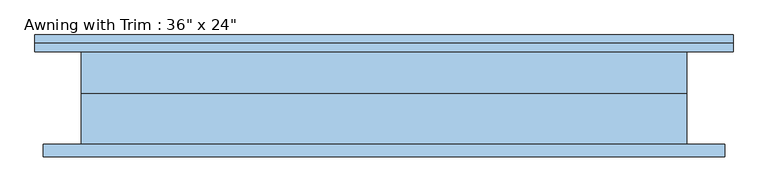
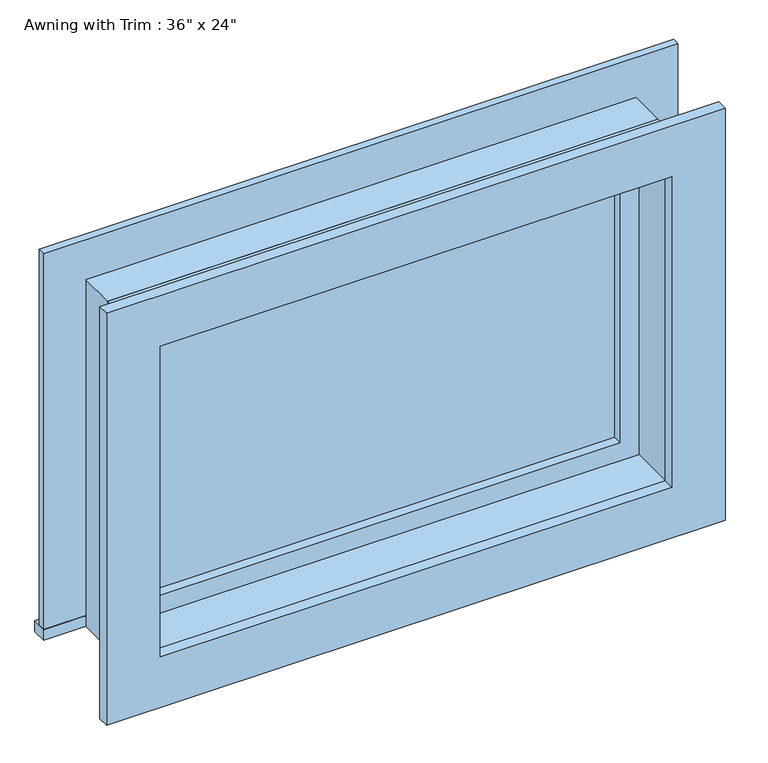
"""IFC4 building model written with IfcOpenShell, lengths in millimetres: window geometry."""

from ifc_helpers import new_model, si_unit, frame, origin, place, context, project, spatial, polyline, outline, extrude, source, transform, mapped, element, save


def window_d9bd7f0d(model_context):
    return source(origin(), model_context, "Body", "SweptSolid", [
        extrude(outline(polyline([(-527.05, 95.25), (527.05, 95.25), (527.05, 69.85), (-527.05, 69.85), (-527.05, 95.25)])), frame((0.0, 0.0, 914.4), z_axis=(0.0, 0.0, 1.0), x_axis=(1.0, 0.0, 0.0)), (0.0, 0.0, 1.0), 19.05),
        extrude(outline(polyline([(1504.95, -438.15), (1504.95, 438.15), (933.45, 438.15), (933.45, 527.05), (1593.85, 527.05), (1593.85, -527.05), (933.45, -527.05), (933.45, -438.15), (1504.95, -438.15)])), frame((0.0, 69.85, 0.0), z_axis=(0.0, 1.0, 0.0), x_axis=(0.0, 0.0, 1.0)), (0.0, 0.0, 1.0), 12.7),
        extrude(outline(polyline([(1581.15, 514.35), (1581.15, -514.35), (857.25, -514.35), (857.25, 514.35), (1581.15, 514.35)]), holes=[polyline([(1492.25, 425.45), (946.15, 425.45), (946.15, -425.45), (1492.25, -425.45), (1492.25, 425.45)])]), frame((0.0, -88.9, 0.0), z_axis=(0.0, 1.0, 0.0), x_axis=(0.0, 0.0, 1.0)), (0.0, 0.0, 1.0), 19.05),
        extrude(outline(polyline([(393.7, 22.225), (-393.7, 22.225), (-393.7, 34.925), (393.7, 34.925), (393.7, 22.225)])), frame((0.0, 0.0, 977.9), z_axis=(0.0, 0.0, 1.0), x_axis=(1.0, 0.0, 0.0)), (0.0, 0.0, 1.0), 482.6),
        extrude(outline(polyline([(1504.95, -438.15), (933.45, -438.15), (933.45, 438.15), (1504.95, 438.15), (1504.95, -438.15)]), holes=[polyline([(1460.5, -393.7), (1460.5, 393.7), (977.9, 393.7), (977.9, -393.7), (1460.5, -393.7)])]), frame((0.0, 6.35, 0.0), z_axis=(0.0, 1.0, 0.0), x_axis=(0.0, 0.0, 1.0)), (0.0, 0.0, 1.0), 44.45),
        extrude(outline(polyline([(1524.0, -457.2), (914.4, -457.2), (914.4, 457.2), (1524.0, 457.2), (1524.0, -457.2)]), holes=[polyline([(1492.25, -425.45), (1492.25, 425.45), (946.15, 425.45), (946.15, -425.45), (1492.25, -425.45)])]), frame((0.0, -69.85, 0.0), z_axis=(0.0, 1.0, 0.0), x_axis=(0.0, 0.0, 1.0)), (0.0, 0.0, 1.0), 76.2),
        extrude(outline(polyline([(1524.0, 457.2), (1524.0, -457.2), (914.4, -457.2), (914.4, 457.2), (1524.0, 457.2)]), holes=[polyline([(1504.95, 438.15), (933.45, 438.15), (933.45, -438.15), (1504.95, -438.15), (1504.95, 438.15)])]), frame((0.0, 6.35, 0.0), z_axis=(0.0, 1.0, 0.0), x_axis=(0.0, 0.0, 1.0)), (0.0, 0.0, 1.0), 63.5),
    ])


if __name__ == "__main__":
    model = new_model("IFC4")
    model_context = context("Model", 3, world=origin())
    ifc_project = project(units=[si_unit("LENGTHUNIT", "METRE", prefix="MILLI")], contexts=[model_context])
    site = spatial("IfcSite", under=ifc_project)
    building = spatial("IfcBuilding", under=site)
    placement = place(None, origin())
    window_shape = window_d9bd7f0d(model_context)
    element("IfcWindow", 1, ObjectType="Awning with Trim : 36\" x 24\"", at=placement, inside=building, context=model_context, shape_type="MappedRepresentation", body=[
        mapped(window_shape, transform((0.0, 0.0, 0.0), x_axis=(1.0, 0.0, 0.0), y_axis=(0.0, 1.0, 0.0), z_axis=(0.0, 0.0, 1.0))),
    ])
    save(model, "model.ifc")
